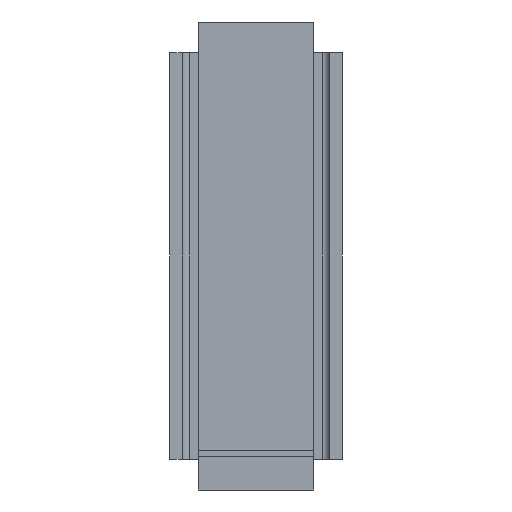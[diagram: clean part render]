
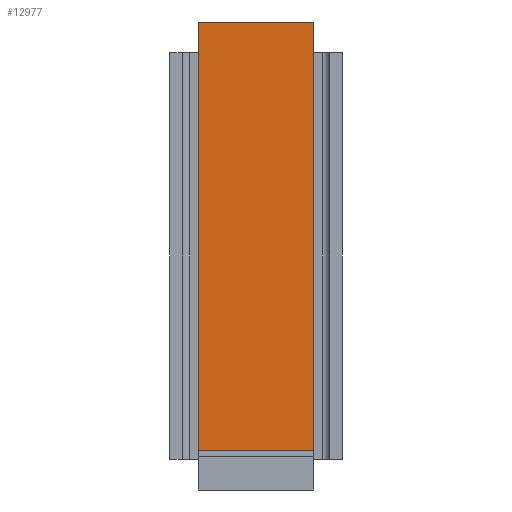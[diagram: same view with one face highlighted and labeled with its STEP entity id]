
A CAD part, left-side view. The second image highlights one B-rep face of the part: STEP entity #12977.
In plain terms, the highlighted planar face has unit normal (-1, 0, 0).
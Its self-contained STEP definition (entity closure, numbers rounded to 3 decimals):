
#29 = VERTEX_POINT ( 'NONE', #18997 ) ;
#194 = DIRECTION ( 'NONE',  ( 0., 0., -1. ) ) ;
#1639 = VECTOR ( 'NONE', #5838, 1000. ) ;
#1750 = LINE ( 'NONE', #8097, #8957 ) ;
#2990 = VERTEX_POINT ( 'NONE', #10858 ) ;
#3400 = EDGE_LOOP ( 'NONE', ( #19516, #19384, #9384, #4627 ) ) ;
#3607 = AXIS2_PLACEMENT_3D ( 'NONE', #13097, #14970, #5099 ) ;
#4353 = CARTESIAN_POINT ( 'NONE',  ( -8., -2.35, 9.5 ) ) ;
#4627 = ORIENTED_EDGE ( 'NONE', *, *, #7701, .T. ) ;
#4901 = CARTESIAN_POINT ( 'NONE',  ( -8., -2.35, 9.5 ) ) ;
#5051 = CARTESIAN_POINT ( 'NONE',  ( -8., -2.35, 9.5 ) ) ;
#5099 = DIRECTION ( 'NONE',  ( 0., 1., 0. ) ) ;
#5838 = DIRECTION ( 'NONE',  ( 0., -1., 0. ) ) ;
#6766 = FACE_OUTER_BOUND ( 'NONE', #3400, .T. ) ;
#6917 = VECTOR ( 'NONE', #9687, 1000. ) ;
#7086 = PLANE ( 'NONE',  #3607 ) ;
#7701 = EDGE_CURVE ( 'NONE', #15569, #2990, #7928, .T. ) ;
#7892 = CARTESIAN_POINT ( 'NONE',  ( -8., -2.35, -7.9 ) ) ;
#7928 = LINE ( 'NONE', #4901, #6917 ) ;
#8097 = CARTESIAN_POINT ( 'NONE',  ( -8., 2.35, 9.5 ) ) ;
#8957 = VECTOR ( 'NONE', #194, 1000. ) ;
#9384 = ORIENTED_EDGE ( 'NONE', *, *, #10864, .F. ) ;
#9687 = DIRECTION ( 'NONE',  ( 0., 1., 0. ) ) ;
#10858 = CARTESIAN_POINT ( 'NONE',  ( -8., 2.35, 9.5 ) ) ;
#10864 = EDGE_CURVE ( 'NONE', #15569, #18570, #18593, .T. ) ;
#12977 = ADVANCED_FACE ( 'NONE', ( #6766 ), #7086, .F. ) ;
#13097 = CARTESIAN_POINT ( 'NONE',  ( -8., -2.35, 9.5 ) ) ;
#13724 = CARTESIAN_POINT ( 'NONE',  ( -8., 7.65, -7.9 ) ) ;
#14970 = DIRECTION ( 'NONE',  ( 1., 0., 0. ) ) ;
#15569 = VERTEX_POINT ( 'NONE', #5051 ) ;
#17029 = DIRECTION ( 'NONE',  ( 0., 0., -1. ) ) ;
#17533 = EDGE_CURVE ( 'NONE', #29, #18570, #18702, .T. ) ;
#18570 = VERTEX_POINT ( 'NONE', #7892 ) ;
#18593 = LINE ( 'NONE', #4353, #19866 ) ;
#18702 = LINE ( 'NONE', #13724, #1639 ) ;
#18997 = CARTESIAN_POINT ( 'NONE',  ( -8., 2.35, -7.9 ) ) ;
#19118 = EDGE_CURVE ( 'NONE', #2990, #29, #1750, .T. ) ;
#19384 = ORIENTED_EDGE ( 'NONE', *, *, #17533, .T. ) ;
#19516 = ORIENTED_EDGE ( 'NONE', *, *, #19118, .T. ) ;
#19866 = VECTOR ( 'NONE', #17029, 1000. ) ;
